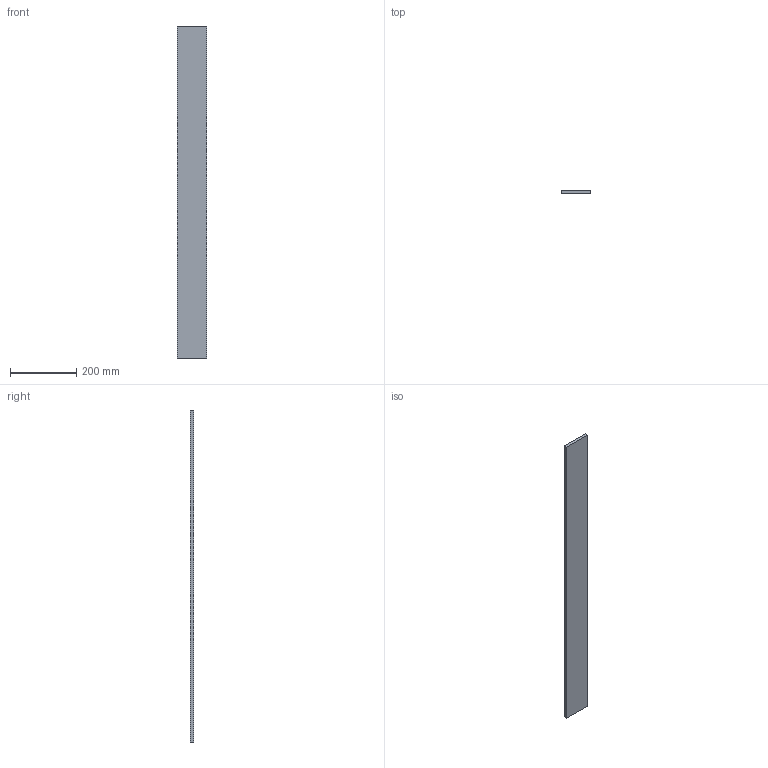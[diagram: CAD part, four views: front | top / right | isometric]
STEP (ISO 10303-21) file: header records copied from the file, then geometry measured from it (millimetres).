
FILE_DESCRIPTION(/* description */ (''),/* implementation_level */ '2;1');
FILE_NAME(/* name */ 'C:\Users\AMS43\Documents\Inventor\AMS\misumi\\X2\30B930DA30B730E330EB30D530EC30FC30E0\X0\_ipt\\X2\30B930DA30B730E330EB30D530EC30FC30E0\X0\_stp\AFFB-09010.ipt.stp',/* time_stamp */ '2016-10-06T11:40:24+09:00',/* author */ ('AMS43'),/* organization */ (''),/* preprocessor_version */ 'ST-DEVELOPER v15.2',/* originating_system */ 'Autodesk Inventor 2014',/* authorisation */ '');
FILE_SCHEMA (('AUTOMOTIVE_DESIGN { 1 0 10303 214 3 1 1 }'));
Length unit declared in the file: metre
Products named in the file (1): AFFB-09010
Bounding box: 90 x 10 x 1000 mm (x, y, z)
Volume: 900000 mm3; surface area: 201800 mm2
Topology: 1 solids, 1 shells, 6 faces, 12 edges, 8 vertices
Faces by surface type: plane 6
Entity records: 187 total; most frequent: CARTESIAN_POINT 27, DIRECTION 26, ORIENTED_EDGE 24, LINE 12, VECTOR 12, EDGE_CURVE 12, VERTEX_POINT 8, AXIS2_PLACEMENT_3D 7
